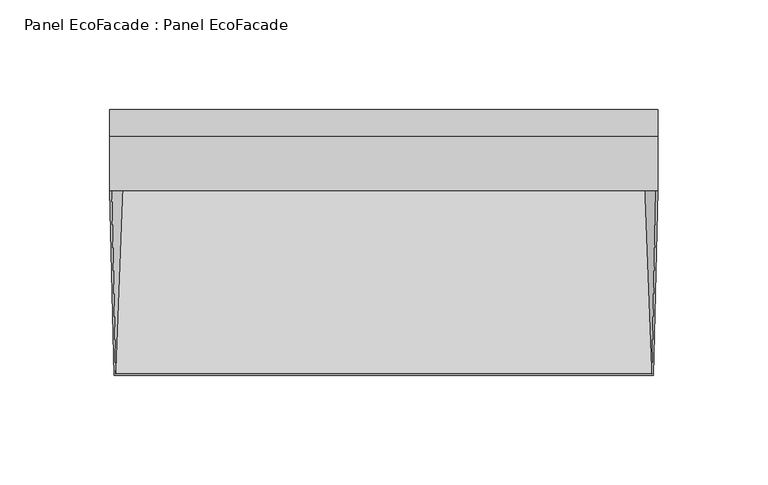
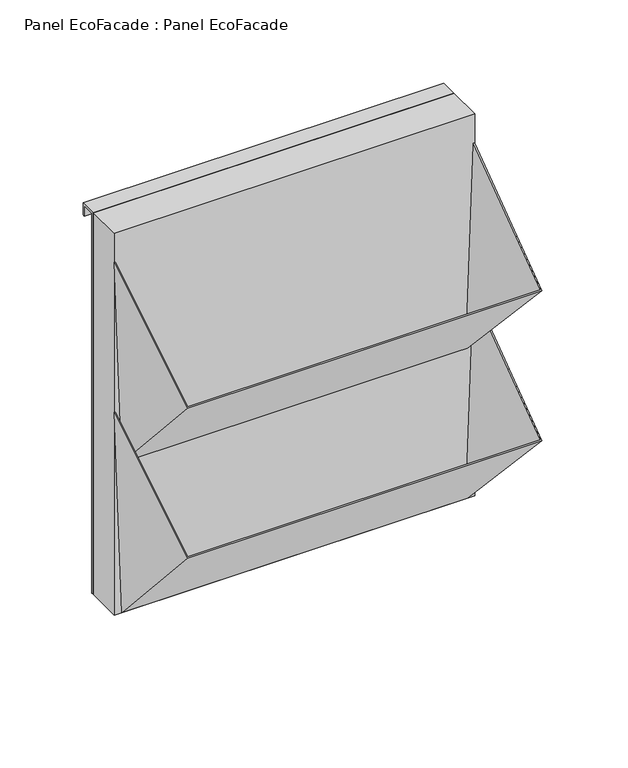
"""IFC4 building model written with IfcOpenShell, lengths in millimetres: plate geometry, Panel EcoFacade : Panel EcoFacade."""

from ifc_helpers import new_model, si_unit, frame, origin, origin_with_axes, place, context, project, spatial, polyline, outline, extrude, faceted_brep, source, transform, mapped, element, save


def panel_ecofacade_panel_ecofacade_8605d590(model_context):
    return source(origin(), model_context, "Body", "SolidModel", [
        faceted_brep([(-124.180785, 0.0, 258.5882353), (-119.0333837, 0.0, 111.185948), (119.0333837, 0.0, 111.185948), (124.180785, 0.0, 258.5882353), (124.9812727, 0.0, 258.5882353), (119.7924572, 0.0, 110.0), (-119.7924572, 0.0, 110.0), (-124.9812727, 0.0, 258.5882353), (-123.0102218, -84.2, 202.1447224), (-122.225466, -83.5279628, 202.5952229), (123.0102218, -84.2, 202.1447224), (122.225466, -83.5279628, 202.5952229)], [[[0, 1, 2, 3, 4, 5, 6, 7]], [[6, 8, 7]], [[1, 0, 9]], [[0, 7, 8, 10, 4, 3, 11, 9]], [[5, 10, 8, 6]], [[1, 9, 11, 2]], [[4, 10, 5]], [[3, 2, 11]]]),
        faceted_brep([(-124.180785, 0.0, 148.5882353), (-119.0333837, 0.0, 1.185948), (119.0333837, 0.0, 1.185948), (124.180785, 0.0, 148.5882353), (124.9812727, 0.0, 148.5882353), (119.7924572, 0.0, 0.0), (-119.7924572, 0.0, 0.0), (-124.9812727, 0.0, 148.5882353), (-123.0102218, -84.2, 92.1447224), (-122.225466, -83.5279628, 92.5952229), (123.0102218, -84.2, 92.1447224), (122.225466, -83.5279628, 92.5952229)], [[[0, 1, 2, 3, 4, 5, 6, 7]], [[6, 8, 7]], [[1, 0, 9]], [[0, 7, 8, 10, 4, 3, 11, 9]], [[5, 10, 8, 6]], [[1, 9, 11, 2]], [[4, 10, 5]], [[3, 2, 11]]]),
        extrude(outline(polyline([(26.5, 0.0), (25.0, 0.0), (25.0, 280.0), (37.0, 280.0), (37.0, 271.0), (35.5, 271.0), (35.5, 278.5), (26.5, 278.5), (26.5, 0.0)])), frame((-125.0000001, 0.0, 0.0), z_axis=(1.0, 0.0, 0.0), x_axis=(0.0, 1.0, 0.0)), (0.0, 0.0, 1.0), 250.0),
        extrude(outline(polyline([(125.0, 25.0), (125.0, 0.0), (-125.0, 0.0), (-125.0, 25.0), (125.0, 25.0)])), origin_with_axes(), (0.0, 0.0, 1.0), 280.0),
    ])


if __name__ == "__main__":
    model = new_model("IFC4")
    model_context = context("Model", 3, world=origin())
    ifc_project = project(units=[si_unit("LENGTHUNIT", "METRE", prefix="MILLI")], contexts=[model_context])
    site = spatial("IfcSite", under=ifc_project)
    building = spatial("IfcBuilding", under=site)
    placement = place(None, origin())
    panel_ecofacade_panel_ecofacade_shape = panel_ecofacade_panel_ecofacade_8605d590(model_context)
    element("IfcPlate", 1, ObjectType="Panel EcoFacade : Panel EcoFacade", at=placement, inside=building, context=model_context, shape_type="MappedRepresentation", body=[
        mapped(panel_ecofacade_panel_ecofacade_shape, transform((0.0, 0.0, 0.0), x_axis=(1.0, 0.0, 0.0), y_axis=(0.0, 1.0, 0.0), z_axis=(0.0, 0.0, 1.0))),
    ])
    save(model, "model.ifc")
